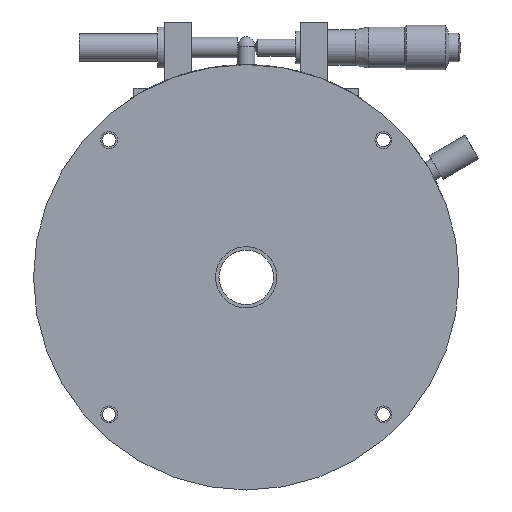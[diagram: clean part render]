
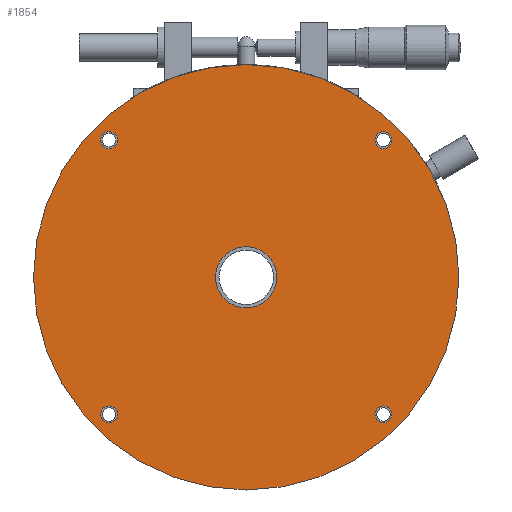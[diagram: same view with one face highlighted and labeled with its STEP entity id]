
A CAD part, front view. The second image highlights one B-rep face of the part: STEP entity #1854.
In plain terms, the highlighted planar face has unit normal (0, -1, 0).
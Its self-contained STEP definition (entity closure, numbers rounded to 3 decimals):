
#871 = EDGE_CURVE ( 'NONE', #872, #873, #5501, .T. ) ;
#872 = VERTEX_POINT ( 'NONE', #5500 ) ;
#873 = VERTEX_POINT ( 'NONE', #5499 ) ;
#1065 = EDGE_CURVE ( 'NONE', #1066, #1067, #4842, .T. ) ;
#1066 = VERTEX_POINT ( 'NONE', #4843 ) ;
#1067 = VERTEX_POINT ( 'NONE', #4825 ) ;
#1110 = VERTEX_POINT ( 'NONE', #2812 ) ;
#1112 = EDGE_CURVE ( 'NONE', #1113, #1110, #2810, .T. ) ;
#1113 = VERTEX_POINT ( 'NONE', #2809 ) ;
#1121 = VERTEX_POINT ( 'NONE', #2775 ) ;
#1129 = VERTEX_POINT ( 'NONE', #2832 ) ;
#1131 = EDGE_CURVE ( 'NONE', #1129, #1132, #2831, .T. ) ;
#1132 = VERTEX_POINT ( 'NONE', #2826 ) ;
#1154 = EDGE_CURVE ( 'NONE', #1159, #1156, #2866, .T. ) ;
#1156 = VERTEX_POINT ( 'NONE', #2889 ) ;
#1159 = VERTEX_POINT ( 'NONE', #2888 ) ;
#1164 = EDGE_CURVE ( 'NONE', #1165, #1121, #2860, .T. ) ;
#1165 = VERTEX_POINT ( 'NONE', #2906 ) ;
#1441 = EDGE_CURVE ( 'NONE', #1121, #1165, #3413, .T. ) ;
#1499 = EDGE_CURVE ( 'NONE', #1132, #1129, #3445, .T. ) ;
#1626 = EDGE_CURVE ( 'NONE', #873, #872, #3662, .T. ) ;
#1641 = EDGE_CURVE ( 'NONE', #1156, #1159, #3738, .T. ) ;
#1758 = EDGE_LOOP ( 'NONE', ( #1759, #1760 ) ) ;
#1759 = ORIENTED_EDGE ( 'NONE', *, *, #1112, .T. ) ;
#1760 = ORIENTED_EDGE ( 'NONE', *, *, #1761, .T. ) ;
#1761 = EDGE_CURVE ( 'NONE', #1110, #1113, #3891, .T. ) ;
#1762 = EDGE_LOOP ( 'NONE', ( #1918, #1919 ) ) ;
#1839 = EDGE_CURVE ( 'NONE', #1067, #1066, #3971, .T. ) ;
#1854 = ADVANCED_FACE ( 'NONE', ( #3907, #3951, #3950, #3910, #3909, #3908 ), #3992, .T. ) ;
#1855 = EDGE_LOOP ( 'NONE', ( #1856, #1857 ) ) ;
#1856 = ORIENTED_EDGE ( 'NONE', *, *, #1839, .T. ) ;
#1857 = ORIENTED_EDGE ( 'NONE', *, *, #1065, .T. ) ;
#1858 = EDGE_LOOP ( 'NONE', ( #1931, #1932 ) ) ;
#1918 = ORIENTED_EDGE ( 'NONE', *, *, #1499, .F. ) ;
#1919 = ORIENTED_EDGE ( 'NONE', *, *, #1131, .F. ) ;
#1931 = ORIENTED_EDGE ( 'NONE', *, *, #1626, .T. ) ;
#1932 = ORIENTED_EDGE ( 'NONE', *, *, #871, .T. ) ;
#1933 = EDGE_LOOP ( 'NONE', ( #1934, #1935 ) ) ;
#1934 = ORIENTED_EDGE ( 'NONE', *, *, #1641, .T. ) ;
#1935 = ORIENTED_EDGE ( 'NONE', *, *, #1154, .T. ) ;
#1936 = EDGE_LOOP ( 'NONE', ( #1937, #1938 ) ) ;
#1937 = ORIENTED_EDGE ( 'NONE', *, *, #1441, .T. ) ;
#1938 = ORIENTED_EDGE ( 'NONE', *, *, #1164, .T. ) ;
#2775 = CARTESIAN_POINT ( 'NONE',  ( -40.305, 0., 42.805 ) ) ;
#2806 = DIRECTION ( 'NONE',  ( 0., 0., -1. ) ) ;
#2807 = DIRECTION ( 'NONE',  ( 0., -1., 0. ) ) ;
#2808 = CARTESIAN_POINT ( 'NONE',  ( 0., 0., 0. ) ) ;
#2809 = CARTESIAN_POINT ( 'NONE',  ( 0., 0., -62.5 ) ) ;
#2810 = CIRCLE ( 'NONE', #2811, 62.5 ) ;
#2811 = AXIS2_PLACEMENT_3D ( 'NONE', #2808, #2807, #2806 ) ;
#2812 = CARTESIAN_POINT ( 'NONE',  ( 0., 0., 62.5 ) ) ;
#2816 = DIRECTION ( 'NONE',  ( 0., 0., 1. ) ) ;
#2817 = AXIS2_PLACEMENT_3D ( 'NONE', #2818, #2819, #2816 ) ;
#2818 = CARTESIAN_POINT ( 'NONE',  ( -40.305, 0., 40.305 ) ) ;
#2819 = DIRECTION ( 'NONE',  ( 0., 1., 0. ) ) ;
#2826 = CARTESIAN_POINT ( 'NONE',  ( 0., 0., -9. ) ) ;
#2827 = DIRECTION ( 'NONE',  ( 0., 0., -1. ) ) ;
#2828 = DIRECTION ( 'NONE',  ( 0., -1., 0. ) ) ;
#2829 = CARTESIAN_POINT ( 'NONE',  ( 0., 0., 0. ) ) ;
#2830 = AXIS2_PLACEMENT_3D ( 'NONE', #2829, #2828, #2827 ) ;
#2831 = CIRCLE ( 'NONE', #2830, 9. ) ;
#2832 = CARTESIAN_POINT ( 'NONE',  ( 0., 0., 9. ) ) ;
#2860 = CIRCLE ( 'NONE', #2817, 2.5 ) ;
#2863 = DIRECTION ( 'NONE',  ( 0., 1., 0. ) ) ;
#2864 = CARTESIAN_POINT ( 'NONE',  ( 40.305, 0., 40.305 ) ) ;
#2865 = AXIS2_PLACEMENT_3D ( 'NONE', #2864, #2863, #2893 ) ;
#2866 = CIRCLE ( 'NONE', #2865, 2.5 ) ;
#2888 = CARTESIAN_POINT ( 'NONE',  ( 40.305, 0., 37.805 ) ) ;
#2889 = CARTESIAN_POINT ( 'NONE',  ( 40.305, 0., 42.805 ) ) ;
#2893 = DIRECTION ( 'NONE',  ( 0., 0., 1. ) ) ;
#2906 = CARTESIAN_POINT ( 'NONE',  ( -40.305, 0., 37.805 ) ) ;
#3409 = CARTESIAN_POINT ( 'NONE',  ( -40.305, 0., 40.305 ) ) ;
#3411 = DIRECTION ( 'NONE',  ( 0., 1., 0. ) ) ;
#3412 = AXIS2_PLACEMENT_3D ( 'NONE', #3409, #3411, #3416 ) ;
#3413 = CIRCLE ( 'NONE', #3412, 2.5 ) ;
#3416 = DIRECTION ( 'NONE',  ( 0., 0., 1. ) ) ;
#3426 = CARTESIAN_POINT ( 'NONE',  ( 0., 0., 0. ) ) ;
#3442 = DIRECTION ( 'NONE',  ( 0., 0., -1. ) ) ;
#3443 = DIRECTION ( 'NONE',  ( 0., -1., 0. ) ) ;
#3444 = AXIS2_PLACEMENT_3D ( 'NONE', #3426, #3443, #3442 ) ;
#3445 = CIRCLE ( 'NONE', #3444, 9. ) ;
#3662 = CIRCLE ( 'NONE', #3720, 2.5 ) ;
#3718 = DIRECTION ( 'NONE',  ( 0., 1., 0. ) ) ;
#3719 = CARTESIAN_POINT ( 'NONE',  ( 40.305, 0., -40.305 ) ) ;
#3720 = AXIS2_PLACEMENT_3D ( 'NONE', #3719, #3718, #3722 ) ;
#3722 = DIRECTION ( 'NONE',  ( 0., 0., 1. ) ) ;
#3735 = DIRECTION ( 'NONE',  ( 0., 1., 0. ) ) ;
#3736 = CARTESIAN_POINT ( 'NONE',  ( 40.305, 0., 40.305 ) ) ;
#3737 = AXIS2_PLACEMENT_3D ( 'NONE', #3736, #3735, #3739 ) ;
#3738 = CIRCLE ( 'NONE', #3737, 2.5 ) ;
#3739 = DIRECTION ( 'NONE',  ( 0., 0., 1. ) ) ;
#3891 = CIRCLE ( 'NONE', #3894, 62.5 ) ;
#3892 = DIRECTION ( 'NONE',  ( 0., -1., 0. ) ) ;
#3893 = CARTESIAN_POINT ( 'NONE',  ( 0., 0., 0. ) ) ;
#3894 = AXIS2_PLACEMENT_3D ( 'NONE', #3893, #3892, #3896 ) ;
#3896 = DIRECTION ( 'NONE',  ( 0., 0., -1. ) ) ;
#3907 = FACE_BOUND ( 'NONE', #1855, .T. ) ;
#3908 = FACE_BOUND ( 'NONE', #1762, .T. ) ;
#3909 = FACE_OUTER_BOUND ( 'NONE', #1758, .T. ) ;
#3910 = FACE_BOUND ( 'NONE', #1936, .T. ) ;
#3937 = CARTESIAN_POINT ( 'NONE',  ( -40.305, 0., -40.305 ) ) ;
#3950 = FACE_BOUND ( 'NONE', #1933, .T. ) ;
#3951 = FACE_BOUND ( 'NONE', #1858, .T. ) ;
#3969 = DIRECTION ( 'NONE',  ( 0., 1., 0. ) ) ;
#3970 = AXIS2_PLACEMENT_3D ( 'NONE', #3937, #3969, #3974 ) ;
#3971 = CIRCLE ( 'NONE', #3970, 2.5 ) ;
#3974 = DIRECTION ( 'NONE',  ( 0., 0., 1. ) ) ;
#3990 = CARTESIAN_POINT ( 'NONE',  ( 46.5, 0., 0. ) ) ;
#3991 = AXIS2_PLACEMENT_3D ( 'NONE', #3990, #4009, #4008 ) ;
#3992 = PLANE ( 'NONE',  #3991 ) ;
#4008 = DIRECTION ( 'NONE',  ( 0., 0., -1. ) ) ;
#4009 = DIRECTION ( 'NONE',  ( 0., -1., 0. ) ) ;
#4825 = CARTESIAN_POINT ( 'NONE',  ( -40.305, 0., -37.805 ) ) ;
#4842 = CIRCLE ( 'NONE', #4852, 2.5 ) ;
#4843 = CARTESIAN_POINT ( 'NONE',  ( -40.305, 0., -42.805 ) ) ;
#4849 = DIRECTION ( 'NONE',  ( 0., 0., 1. ) ) ;
#4850 = DIRECTION ( 'NONE',  ( 0., 1., 0. ) ) ;
#4851 = CARTESIAN_POINT ( 'NONE',  ( -40.305, 0., -40.305 ) ) ;
#4852 = AXIS2_PLACEMENT_3D ( 'NONE', #4851, #4850, #4849 ) ;
#5499 = CARTESIAN_POINT ( 'NONE',  ( 40.305, 0., -37.805 ) ) ;
#5500 = CARTESIAN_POINT ( 'NONE',  ( 40.305, 0., -42.805 ) ) ;
#5501 = CIRCLE ( 'NONE', #5532, 2.5 ) ;
#5502 = CARTESIAN_POINT ( 'NONE',  ( 40.305, 0., -40.305 ) ) ;
#5503 = DIRECTION ( 'NONE',  ( 0., 0., 1. ) ) ;
#5519 = DIRECTION ( 'NONE',  ( 0., 1., 0. ) ) ;
#5532 = AXIS2_PLACEMENT_3D ( 'NONE', #5502, #5519, #5503 ) ;
